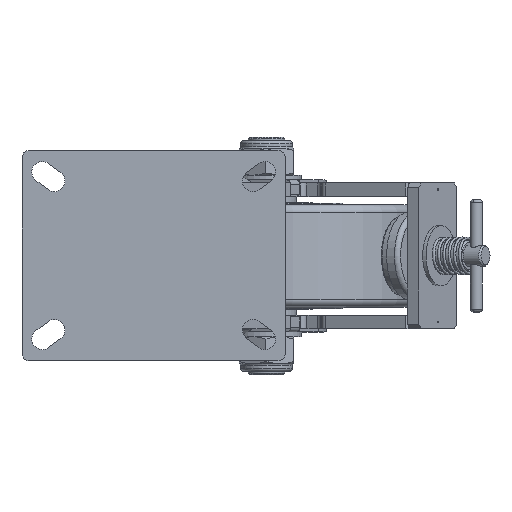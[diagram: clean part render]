
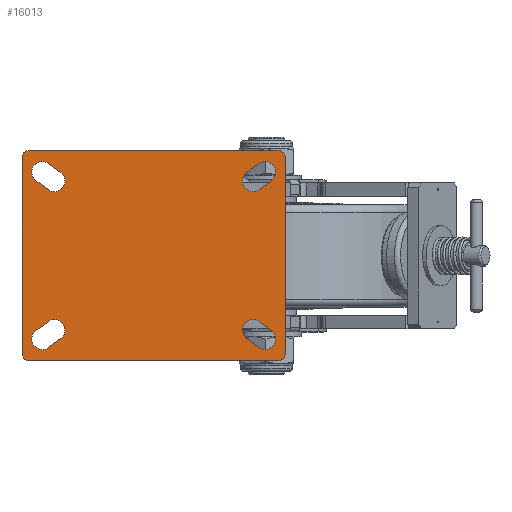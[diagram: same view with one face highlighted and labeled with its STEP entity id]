
A CAD part, top view. The second image highlights one B-rep face of the part: STEP entity #16013.
In plain terms, the highlighted planar face has unit normal (0, 0, 1).
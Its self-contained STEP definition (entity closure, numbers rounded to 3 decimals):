
#14974=CARTESIAN_POINT('',(-82.5,-70.,36.825));
#14975=VERTEX_POINT('',#14974);
#14976=CARTESIAN_POINT('',(-87.5,-65.,36.825));
#14977=VERTEX_POINT('',#14976);
#14978=CARTESIAN_POINT('',(-82.5,-65.,36.825));
#14979=DIRECTION('',(0.0,0.0,-1.));
#14980=DIRECTION('',(-0.707,-0.707,0.0));
#14981=AXIS2_PLACEMENT_3D('',#14978,#14979,#14980);
#14982=CIRCLE('',#14981,5.);
#14983=EDGE_CURVE('',#14975,#14977,#14982,.T.);
#15156=CARTESIAN_POINT('',(-87.5,65.,36.825));
#15157=VERTEX_POINT('',#15156);
#15158=CARTESIAN_POINT('',(-87.5,-65.,36.825));
#15159=DIRECTION('',(0.0,1.0,0.0));
#15160=VECTOR('',#15159,130.0);
#15161=LINE('',#15158,#15160);
#15162=EDGE_CURVE('',#14977,#15157,#15161,.T.);
#15179=CARTESIAN_POINT('',(-82.5,70.,36.825));
#15180=VERTEX_POINT('',#15179);
#15181=CARTESIAN_POINT('',(-82.5,65.,36.825));
#15182=DIRECTION('',(0.0,0.0,-1.));
#15183=DIRECTION('',(-0.707,0.707,0.0));
#15184=AXIS2_PLACEMENT_3D('',#15181,#15182,#15183);
#15185=CIRCLE('',#15184,5.);
#15186=EDGE_CURVE('',#15157,#15180,#15185,.T.);
#15204=CARTESIAN_POINT('',(82.5,70.,36.825));
#15205=VERTEX_POINT('',#15204);
#15206=CARTESIAN_POINT('',(87.5,65.,36.825));
#15207=VERTEX_POINT('',#15206);
#15208=CARTESIAN_POINT('',(82.5,65.,36.825));
#15209=DIRECTION('',(0.0,0.0,-1.));
#15210=DIRECTION('',(0.707,0.707,0.0));
#15211=AXIS2_PLACEMENT_3D('',#15208,#15209,#15210);
#15212=CIRCLE('',#15211,5.);
#15213=EDGE_CURVE('',#15205,#15207,#15212,.T.);
#15394=CARTESIAN_POINT('',(87.5,-65.,36.825));
#15395=VERTEX_POINT('',#15394);
#15396=CARTESIAN_POINT('',(87.5,65.,36.825));
#15397=DIRECTION('',(0.0,-1.0,0.0));
#15398=VECTOR('',#15397,130.);
#15399=LINE('',#15396,#15398);
#15400=EDGE_CURVE('',#15207,#15395,#15399,.T.);
#15417=CARTESIAN_POINT('',(82.5,-70.,36.825));
#15418=VERTEX_POINT('',#15417);
#15419=CARTESIAN_POINT('',(82.5,-65.,36.825));
#15420=DIRECTION('',(0.0,0.0,-1.));
#15421=DIRECTION('',(0.707,-0.707,0.0));
#15422=AXIS2_PLACEMENT_3D('',#15419,#15420,#15421);
#15423=CIRCLE('',#15422,5.);
#15424=EDGE_CURVE('',#15395,#15418,#15423,.T.);
#15552=CARTESIAN_POINT('',(-82.5,70.,36.825));
#15553=DIRECTION('',(1.0,0.0,0.0));
#15554=VECTOR('',#15553,165.0);
#15555=LINE('',#15552,#15554);
#15556=EDGE_CURVE('',#15180,#15205,#15555,.T.);
#15573=CARTESIAN_POINT('',(82.5,-70.,36.825));
#15574=DIRECTION('',(-1.0,0.0,0.0));
#15575=VECTOR('',#15574,165.);
#15576=LINE('',#15573,#15575);
#15577=EDGE_CURVE('',#15418,#14975,#15576,.T.);
#15587=CARTESIAN_POINT('',(-70.2,43.9,36.825));
#15588=VERTEX_POINT('',#15587);
#15589=CARTESIAN_POINT('',(-61.8,55.1,36.825));
#15590=VERTEX_POINT('',#15589);
#15591=CARTESIAN_POINT('',(-66.,49.5,36.825));
#15592=DIRECTION('',(0.0,0.0,1.0));
#15593=DIRECTION('',(1.0,0.0,0.0));
#15594=AXIS2_PLACEMENT_3D('',#15591,#15592,#15593);
#15595=CIRCLE('',#15594,7.);
#15596=EDGE_CURVE('',#15588,#15590,#15595,.T.);
#15619=CARTESIAN_POINT('',(-69.8,61.1,36.825));
#15620=VERTEX_POINT('',#15619);
#15621=CARTESIAN_POINT('',(-61.8,55.1,36.825));
#15622=DIRECTION('',(-0.8,0.6,0.0));
#15623=VECTOR('',#15622,10.);
#15624=LINE('',#15621,#15623);
#15625=EDGE_CURVE('',#15590,#15620,#15624,.T.);
#15643=CARTESIAN_POINT('',(-78.2,49.9,36.825));
#15644=VERTEX_POINT('',#15643);
#15645=CARTESIAN_POINT('',(-74.,55.5,36.825));
#15646=DIRECTION('',(0.0,0.0,1.0));
#15647=DIRECTION('',(1.0,0.0,0.0));
#15648=AXIS2_PLACEMENT_3D('',#15645,#15646,#15647);
#15649=CIRCLE('',#15648,7.);
#15650=EDGE_CURVE('',#15620,#15644,#15649,.T.);
#15668=CARTESIAN_POINT('',(-78.2,49.9,36.825));
#15669=DIRECTION('',(0.8,-0.6,0.0));
#15670=VECTOR('',#15669,10.);
#15671=LINE('',#15668,#15670);
#15672=EDGE_CURVE('',#15644,#15588,#15671,.T.);
#15685=CARTESIAN_POINT('',(-78.2,-49.9,36.825));
#15686=VERTEX_POINT('',#15685);
#15687=CARTESIAN_POINT('',(-69.8,-61.1,36.825));
#15688=VERTEX_POINT('',#15687);
#15689=CARTESIAN_POINT('',(-74.,-55.5,36.825));
#15690=DIRECTION('',(0.0,0.0,1.0));
#15691=DIRECTION('',(1.0,0.0,0.0));
#15692=AXIS2_PLACEMENT_3D('',#15689,#15690,#15691);
#15693=CIRCLE('',#15692,7.);
#15694=EDGE_CURVE('',#15686,#15688,#15693,.T.);
#15717=CARTESIAN_POINT('',(-61.8,-55.1,36.825));
#15718=VERTEX_POINT('',#15717);
#15719=CARTESIAN_POINT('',(-69.8,-61.1,36.825));
#15720=DIRECTION('',(0.8,0.6,0.0));
#15721=VECTOR('',#15720,10.0);
#15722=LINE('',#15719,#15721);
#15723=EDGE_CURVE('',#15688,#15718,#15722,.T.);
#15741=CARTESIAN_POINT('',(-70.2,-43.9,36.825));
#15742=VERTEX_POINT('',#15741);
#15743=CARTESIAN_POINT('',(-66.,-49.5,36.825));
#15744=DIRECTION('',(0.0,0.0,1.0));
#15745=DIRECTION('',(1.0,0.0,0.0));
#15746=AXIS2_PLACEMENT_3D('',#15743,#15744,#15745);
#15747=CIRCLE('',#15746,7.);
#15748=EDGE_CURVE('',#15718,#15742,#15747,.T.);
#15766=CARTESIAN_POINT('',(-70.2,-43.9,36.825));
#15767=DIRECTION('',(-0.8,-0.6,0.0));
#15768=VECTOR('',#15767,10.);
#15769=LINE('',#15766,#15768);
#15770=EDGE_CURVE('',#15742,#15686,#15769,.T.);
#15783=CARTESIAN_POINT('',(70.2,-43.9,36.825));
#15784=VERTEX_POINT('',#15783);
#15785=CARTESIAN_POINT('',(61.8,-55.1,36.825));
#15786=VERTEX_POINT('',#15785);
#15787=CARTESIAN_POINT('',(66.,-49.5,36.825));
#15788=DIRECTION('',(0.0,0.0,1.0));
#15789=DIRECTION('',(1.0,0.0,0.0));
#15790=AXIS2_PLACEMENT_3D('',#15787,#15788,#15789);
#15791=CIRCLE('',#15790,7.);
#15792=EDGE_CURVE('',#15784,#15786,#15791,.T.);
#15815=CARTESIAN_POINT('',(69.8,-61.1,36.825));
#15816=VERTEX_POINT('',#15815);
#15817=CARTESIAN_POINT('',(61.8,-55.1,36.825));
#15818=DIRECTION('',(0.8,-0.6,0.0));
#15819=VECTOR('',#15818,10.0);
#15820=LINE('',#15817,#15819);
#15821=EDGE_CURVE('',#15786,#15816,#15820,.T.);
#15839=CARTESIAN_POINT('',(78.2,-49.9,36.825));
#15840=VERTEX_POINT('',#15839);
#15841=CARTESIAN_POINT('',(74.,-55.5,36.825));
#15842=DIRECTION('',(0.0,0.0,1.0));
#15843=DIRECTION('',(1.0,0.0,0.0));
#15844=AXIS2_PLACEMENT_3D('',#15841,#15842,#15843);
#15845=CIRCLE('',#15844,7.);
#15846=EDGE_CURVE('',#15816,#15840,#15845,.T.);
#15864=CARTESIAN_POINT('',(78.2,-49.9,36.825));
#15865=DIRECTION('',(-0.8,0.6,0.0));
#15866=VECTOR('',#15865,10.);
#15867=LINE('',#15864,#15866);
#15868=EDGE_CURVE('',#15840,#15784,#15867,.T.);
#15881=CARTESIAN_POINT('',(78.2,49.9,36.825));
#15882=VERTEX_POINT('',#15881);
#15883=CARTESIAN_POINT('',(69.8,61.1,36.825));
#15884=VERTEX_POINT('',#15883);
#15885=CARTESIAN_POINT('',(74.,55.5,36.825));
#15886=DIRECTION('',(0.0,0.0,1.0));
#15887=DIRECTION('',(1.0,0.0,0.0));
#15888=AXIS2_PLACEMENT_3D('',#15885,#15886,#15887);
#15889=CIRCLE('',#15888,7.);
#15890=EDGE_CURVE('',#15882,#15884,#15889,.T.);
#15913=CARTESIAN_POINT('',(61.8,55.1,36.825));
#15914=VERTEX_POINT('',#15913);
#15915=CARTESIAN_POINT('',(69.8,61.1,36.825));
#15916=DIRECTION('',(-0.8,-0.6,0.0));
#15917=VECTOR('',#15916,10.);
#15918=LINE('',#15915,#15917);
#15919=EDGE_CURVE('',#15884,#15914,#15918,.T.);
#15937=CARTESIAN_POINT('',(70.2,43.9,36.825));
#15938=VERTEX_POINT('',#15937);
#15939=CARTESIAN_POINT('',(66.,49.5,36.825));
#15940=DIRECTION('',(0.0,0.0,1.0));
#15941=DIRECTION('',(1.0,0.0,0.0));
#15942=AXIS2_PLACEMENT_3D('',#15939,#15940,#15941);
#15943=CIRCLE('',#15942,7.);
#15944=EDGE_CURVE('',#15914,#15938,#15943,.T.);
#15962=CARTESIAN_POINT('',(70.2,43.9,36.825));
#15963=DIRECTION('',(0.8,0.6,0.0));
#15964=VECTOR('',#15963,10.);
#15965=LINE('',#15962,#15964);
#15966=EDGE_CURVE('',#15938,#15882,#15965,.T.);
#15974=CARTESIAN_POINT('',(-70.2,43.9,36.825));
#15975=DIRECTION('',(0.0,0.0,1.0));
#15976=DIRECTION('',(1.0,0.0,0.0));
#15977=AXIS2_PLACEMENT_3D('',#15974,#15975,#15976);
#15978=PLANE('',#15977);
#15979=ORIENTED_EDGE('',*,*,#14983,.F.);
#15980=ORIENTED_EDGE('',*,*,#15577,.F.);
#15981=ORIENTED_EDGE('',*,*,#15424,.F.);
#15982=ORIENTED_EDGE('',*,*,#15400,.F.);
#15983=ORIENTED_EDGE('',*,*,#15213,.F.);
#15984=ORIENTED_EDGE('',*,*,#15556,.F.);
#15985=ORIENTED_EDGE('',*,*,#15186,.F.);
#15986=ORIENTED_EDGE('',*,*,#15162,.F.);
#15987=EDGE_LOOP('',(#15979,#15980,#15981,#15982,#15983,#15984,#15985,#15986));
#15988=FACE_OUTER_BOUND('',#15987,.T.);
#15989=ORIENTED_EDGE('',*,*,#15890,.F.);
#15990=ORIENTED_EDGE('',*,*,#15966,.F.);
#15991=ORIENTED_EDGE('',*,*,#15944,.F.);
#15992=ORIENTED_EDGE('',*,*,#15919,.F.);
#15993=EDGE_LOOP('',(#15989,#15990,#15991,#15992));
#15994=FACE_BOUND('',#15993,.T.);
#15995=ORIENTED_EDGE('',*,*,#15792,.F.);
#15996=ORIENTED_EDGE('',*,*,#15868,.F.);
#15997=ORIENTED_EDGE('',*,*,#15846,.F.);
#15998=ORIENTED_EDGE('',*,*,#15821,.F.);
#15999=EDGE_LOOP('',(#15995,#15996,#15997,#15998));
#16000=FACE_BOUND('',#15999,.T.);
#16001=ORIENTED_EDGE('',*,*,#15694,.F.);
#16002=ORIENTED_EDGE('',*,*,#15770,.F.);
#16003=ORIENTED_EDGE('',*,*,#15748,.F.);
#16004=ORIENTED_EDGE('',*,*,#15723,.F.);
#16005=EDGE_LOOP('',(#16001,#16002,#16003,#16004));
#16006=FACE_BOUND('',#16005,.T.);
#16007=ORIENTED_EDGE('',*,*,#15596,.F.);
#16008=ORIENTED_EDGE('',*,*,#15672,.F.);
#16009=ORIENTED_EDGE('',*,*,#15650,.F.);
#16010=ORIENTED_EDGE('',*,*,#15625,.F.);
#16011=EDGE_LOOP('',(#16007,#16008,#16009,#16010));
#16012=FACE_BOUND('',#16011,.T.);
#16013=ADVANCED_FACE('',(#15988,#15994,#16000,#16006,#16012),#15978,.T.);
